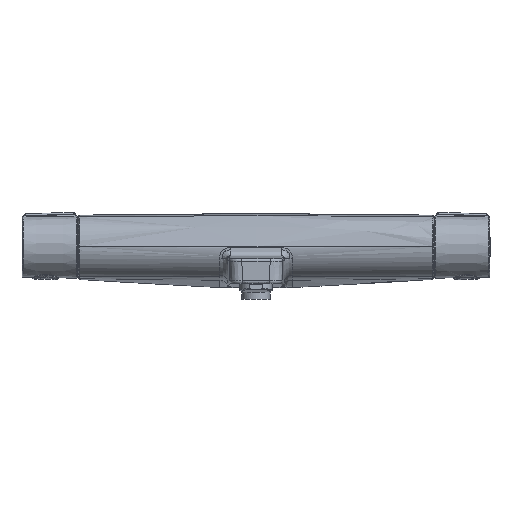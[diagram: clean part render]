
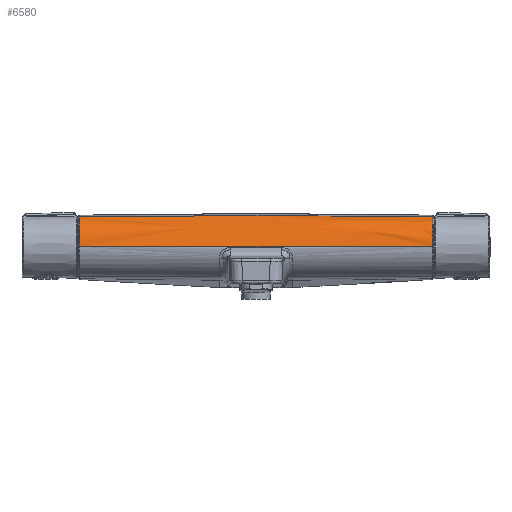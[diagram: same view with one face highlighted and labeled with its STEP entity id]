
A CAD part, top view. The second image highlights one B-rep face of the part: STEP entity #6580.
In plain terms, the highlighted free-form (B-spline) face has degree [2, 3] with [7, 4] control points.
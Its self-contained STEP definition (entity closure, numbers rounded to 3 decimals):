
#396 = CARTESIAN_POINT ( 'NONE',  ( 130.597, 0.257, 22.326 ) ) ;
#717 = CARTESIAN_POINT ( 'NONE',  ( -130.2, 0.257, 22.332 ) ) ;
#4190 = CARTESIAN_POINT ( 'NONE',  ( 130.994, 0.257, 22.32 ) ) ;
#4513 = CARTESIAN_POINT ( 'NONE',  ( -43.149, 23.074, 6.186 ) ) ;
#6580 = ADVANCED_FACE ( 'NONE', ( #31604 ), #6813, .F. ) ;
#6813 =( BOUNDED_SURFACE ( )  B_SPLINE_SURFACE ( 2, 3, ( 
 ( #11622, #37970, #30999, #19874 ),
 ( #31155, #23602, #7973, #27375 ),
 ( #23448, #8458, #34823, #717 ),
 ( #15432, #15743, #19380, #19210 ),
 ( #30831, #19709, #8297, #45706 ),
 ( #45551, #22954, #38142, #396 ),
 ( #26720, #27055, #11791, #4190 ) ),
 .UNSPECIFIED., .F., .F., .T. ) 
 B_SPLINE_SURFACE_WITH_KNOTS ( ( 3, 2, 2, 3 ),
 ( 4, 4 ),
 ( 0.018, 0.021, 0.979, 0.982 ),
 ( 0., 1. ),
 .UNSPECIFIED. ) 
 GEOMETRIC_REPRESENTATION_ITEM ( )  RATIONAL_B_SPLINE_SURFACE ( (
 ( 1., 0.866, 0.866, 1.),
 ( 1., 0.866, 0.866, 1.),
 ( 1., 0.866, 0.866, 1.),
 ( 1., 0.866, 0.866, 1.),
 ( 1., 0.866, 0.866, 1.),
 ( 1., 0.866, 0.866, 1.),
 ( 1., 0.866, 0.866, 1.) ) ) 
 REPRESENTATION_ITEM ( '' )  SURFACE ( )  );
#6932 = CARTESIAN_POINT ( 'NONE',  ( -129.441, 15.327, 18.783 ) ) ;
#7022 = VERTEX_POINT ( 'NONE', #10220 ) ;
#7973 = CARTESIAN_POINT ( 'NONE',  ( -130.597, 10.774, 22.326 ) ) ;
#8297 = CARTESIAN_POINT ( 'NONE',  ( 130.2, 10.777, 22.332 ) ) ;
#8458 = CARTESIAN_POINT ( 'NONE',  ( -130.2, 19.186, 16.012 ) ) ;
#10220 = CARTESIAN_POINT ( 'NONE',  ( -129.441, 22.122, 5.91 ) ) ;
#10577 = CARTESIAN_POINT ( 'NONE',  ( -129.441, 20.879, 10.2 ) ) ;
#11100 = CARTESIAN_POINT ( 'NONE',  ( 129.441, 17.601, 14.526 ) ) ;
#11622 = CARTESIAN_POINT ( 'NONE',  ( -130.994, 22.098, 5.903 ) ) ;
#11791 = CARTESIAN_POINT ( 'NONE',  ( 130.994, 10.771, 22.32 ) ) ;
#11944 = CARTESIAN_POINT ( 'NONE',  ( 129.441, 22.122, 5.91 ) ) ;
#13512 = CARTESIAN_POINT ( 'NONE',  ( -129.441, 0.257, 22.348 ) ) ;
#14387 = CARTESIAN_POINT ( 'NONE',  ( -129.441, 0.257, 22.353 ) ) ;
#14583 = CARTESIAN_POINT ( 'NONE',  ( 129.441, 22.122, 5.91 ) ) ;
#15432 = CARTESIAN_POINT ( 'NONE',  ( 0., 24.037, 6.465 ) ) ;
#15743 = CARTESIAN_POINT ( 'NONE',  ( 0., 20.855, 17.461 ) ) ;
#15967 = ORIENTED_EDGE ( 'NONE', *, *, #32503, .T. ) ;
#17557 = CARTESIAN_POINT ( 'NONE',  ( 129.441, 21.442, 8.257 ) ) ;
#17867 = ORIENTED_EDGE ( 'NONE', *, *, #25723, .F. ) ;
#18281 = CARTESIAN_POINT ( 'NONE',  ( 0., 0.257, 24.327 ) ) ;
#18370 = CARTESIAN_POINT ( 'NONE',  ( 129.441, 20.375, 10.494 ) ) ;
#18988 = CARTESIAN_POINT ( 'NONE',  ( 129.441, 22.122, 5.91 ) ) ;
#19210 = CARTESIAN_POINT ( 'NONE',  ( 0., 0.257, 24.339 ) ) ;
#19380 = CARTESIAN_POINT ( 'NONE',  ( 0., 11.704, 24.339 ) ) ;
#19709 = CARTESIAN_POINT ( 'NONE',  ( 130.2, 19.186, 16.012 ) ) ;
#19874 = CARTESIAN_POINT ( 'NONE',  ( -130.994, 0.257, 22.32 ) ) ;
#22126 = CARTESIAN_POINT ( 'NONE',  ( 129.441, 5.141, 22.353 ) ) ;
#22567 = CARTESIAN_POINT ( 'NONE',  ( -129.441, 22.122, 5.91 ) ) ;
#22954 = CARTESIAN_POINT ( 'NONE',  ( 130.597, 19.181, 16.007 ) ) ;
#23448 = CARTESIAN_POINT ( 'NONE',  ( -130.2, 22.11, 5.907 ) ) ;
#23602 = CARTESIAN_POINT ( 'NONE',  ( -130.597, 19.181, 16.007 ) ) ;
#25415 =( BOUNDED_CURVE ( )  B_SPLINE_CURVE ( 3, ( #37573, #14387, #48769, #6932, #10577, #22567 ),
 .UNSPECIFIED., .F., .F. ) 
 B_SPLINE_CURVE_WITH_KNOTS ( ( 4, 1, 1, 4 ),
 ( 0.494, 0.494, 0.769, 1. ),
 .UNSPECIFIED. ) 
 CURVE ( )  GEOMETRIC_REPRESENTATION_ITEM ( )  RATIONAL_B_SPLINE_CURVE ( ( 1., 1., 1., 1., 1., 1. ) ) 
 REPRESENTATION_ITEM ( '' )  );
#25560 = ORIENTED_EDGE ( 'NONE', *, *, #37086, .F. ) ;
#25723 = EDGE_CURVE ( 'NONE', #30930, #7022, #25415, .T. ) ;
#26720 = CARTESIAN_POINT ( 'NONE',  ( 130.994, 22.098, 5.903 ) ) ;
#27055 = CARTESIAN_POINT ( 'NONE',  ( 130.994, 19.175, 16.003 ) ) ;
#27304 = CARTESIAN_POINT ( 'NONE',  ( 129.441, 0.257, 22.348 ) ) ;
#27375 = CARTESIAN_POINT ( 'NONE',  ( -130.597, 0.257, 22.326 ) ) ;
#27523 = CARTESIAN_POINT ( 'NONE',  ( 86.297, 22.755, 6.093 ) ) ;
#27907 = B_SPLINE_CURVE_WITH_KNOTS ( 'NONE', 3,
 ( #43570, #31141, #4513, #42393, #27523, #11944 ),
 .UNSPECIFIED., .F., .F.,
 ( 4, 2, 4 ),
 ( 0., 0.5, 1. ),
 .UNSPECIFIED. ) ;
#29566 = CARTESIAN_POINT ( 'NONE',  ( -129.441, 0.257, 22.348 ) ) ;
#29656 = CARTESIAN_POINT ( 'NONE',  ( 129.441, 15.893, 16.318 ) ) ;
#30831 = CARTESIAN_POINT ( 'NONE',  ( 130.2, 22.11, 5.907 ) ) ;
#30930 = VERTEX_POINT ( 'NONE', #13512 ) ;
#30999 = CARTESIAN_POINT ( 'NONE',  ( -130.994, 10.771, 22.32 ) ) ;
#31141 = CARTESIAN_POINT ( 'NONE',  ( -86.298, 22.755, 6.093 ) ) ;
#31155 = CARTESIAN_POINT ( 'NONE',  ( -130.597, 22.104, 5.905 ) ) ;
#31604 = FACE_OUTER_BOUND ( 'NONE', #46035, .T. ) ;
#32003 = ORIENTED_EDGE ( 'NONE', *, *, #35865, .F. ) ;
#32503 = EDGE_CURVE ( 'NONE', #30930, #34000, #37662, .T. ) ;
#34000 = VERTEX_POINT ( 'NONE', #27304 ) ;
#34823 = CARTESIAN_POINT ( 'NONE',  ( -130.2, 10.777, 22.332 ) ) ;
#35865 = EDGE_CURVE ( 'NONE', #7022, #36266, #27907, .T. ) ;
#36266 = VERTEX_POINT ( 'NONE', #18988 ) ;
#37086 = EDGE_CURVE ( 'NONE', #36266, #34000, #37940, .T. ) ;
#37282 = CARTESIAN_POINT ( 'NONE',  ( 129.441, 0.257, 22.348 ) ) ;
#37521 = CARTESIAN_POINT ( 'NONE',  ( 129.441, 0.257, 22.348 ) ) ;
#37573 = CARTESIAN_POINT ( 'NONE',  ( -129.441, 0.257, 22.348 ) ) ;
#37662 =( BOUNDED_CURVE ( )  B_SPLINE_CURVE ( 2, ( #29566, #18281, #37521 ),
 .UNSPECIFIED., .F., .F. ) 
 B_SPLINE_CURVE_WITH_KNOTS ( ( 3, 3 ),
 ( 0.024, 0.976 ),
 .UNSPECIFIED. ) 
 CURVE ( )  GEOMETRIC_REPRESENTATION_ITEM ( )  RATIONAL_B_SPLINE_CURVE ( ( 1., 1., 1. ) ) 
 REPRESENTATION_ITEM ( '' )  );
#37940 = B_SPLINE_CURVE_WITH_KNOTS ( 'NONE', 3,
 ( #14583, #17557, #18370, #11100, #29656, #44703, #22126, #37282 ),
 .UNSPECIFIED., .F., .F.,
 ( 4, 2, 2, 4 ),
 ( 0., 0.126, 0.253, 0.506 ),
 .UNSPECIFIED. ) ;
#37970 = CARTESIAN_POINT ( 'NONE',  ( -130.994, 19.175, 16.003 ) ) ;
#38142 = CARTESIAN_POINT ( 'NONE',  ( 130.597, 10.774, 22.326 ) ) ;
#42393 = CARTESIAN_POINT ( 'NONE',  ( 43.149, 23.074, 6.186 ) ) ;
#43570 = CARTESIAN_POINT ( 'NONE',  ( -129.441, 22.122, 5.91 ) ) ;
#44703 = CARTESIAN_POINT ( 'NONE',  ( 129.441, 10.024, 20.71 ) ) ;
#45551 = CARTESIAN_POINT ( 'NONE',  ( 130.597, 22.104, 5.905 ) ) ;
#45706 = CARTESIAN_POINT ( 'NONE',  ( 130.2, 0.257, 22.332 ) ) ;
#46035 = EDGE_LOOP ( 'NONE', ( #17867, #15967, #25560, #32003 ) ) ;
#48769 = CARTESIAN_POINT ( 'NONE',  ( -129.441, 5.562, 22.353 ) ) ;
